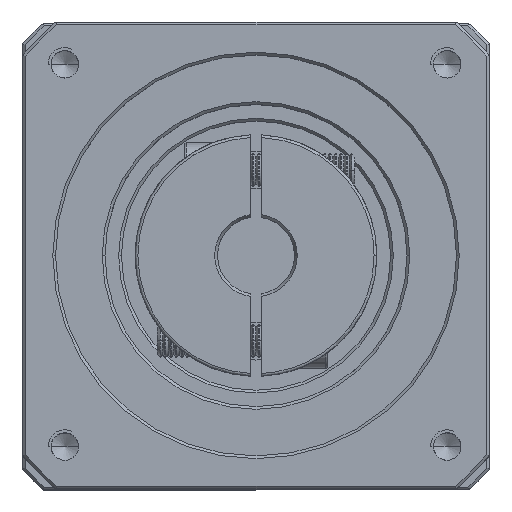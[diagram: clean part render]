
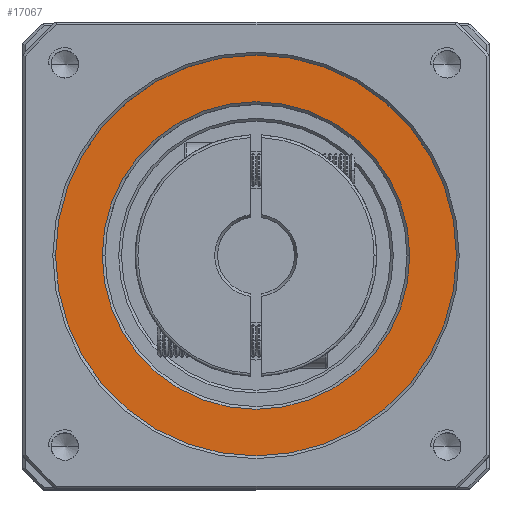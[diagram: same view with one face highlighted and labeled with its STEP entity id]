
A CAD part, top view. The second image highlights one B-rep face of the part: STEP entity #17067.
In plain terms, the highlighted planar face has unit normal (0, 0, 1).
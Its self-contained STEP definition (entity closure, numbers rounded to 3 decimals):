
#2518 = CIRCLE ( 'NONE', #116106, 36.5 ) ;
#4107 = CIRCLE ( 'NONE', #29869, 36.5 ) ;
#7945 = EDGE_CURVE ( 'NONE', #37835, #43815, #98008, .T. ) ;
#10359 = CARTESIAN_POINT ( 'NONE',  ( -93.575, 34.038, 33.892 ) ) ;
#11308 = CARTESIAN_POINT ( 'NONE',  ( -93.575, 34.038, 33.892 ) ) ;
#15806 = DIRECTION ( 'NONE',  ( 0., 0., -1. ) ) ;
#17067 = ADVANCED_FACE ( 'NONE', ( #87179, #66218 ), #63870, .T. ) ;
#19422 = DIRECTION ( 'NONE',  ( 1., 0., 0. ) ) ;
#20348 = DIRECTION ( 'NONE',  ( 1., 0., 0. ) ) ;
#25527 = VERTEX_POINT ( 'NONE', #103358 ) ;
#26102 = VERTEX_POINT ( 'NONE', #59445 ) ;
#29869 = AXIS2_PLACEMENT_3D ( 'NONE', #99952, #46379, #109073 ) ;
#33146 = ORIENTED_EDGE ( 'NONE', *, *, #36855, .T. ) ;
#33407 = CARTESIAN_POINT ( 'NONE',  ( -93.575, 34.038, 33.892 ) ) ;
#36855 = EDGE_CURVE ( 'NONE', #25527, #26102, #2518, .T. ) ;
#37835 = VERTEX_POINT ( 'NONE', #50265 ) ;
#42494 = DIRECTION ( 'NONE',  ( 1., 0., 0. ) ) ;
#43815 = VERTEX_POINT ( 'NONE', #92078 ) ;
#46379 = DIRECTION ( 'NONE',  ( 0., 0., 1. ) ) ;
#50265 = CARTESIAN_POINT ( 'NONE',  ( -121.575, 34.038, 33.892 ) ) ;
#53792 = AXIS2_PLACEMENT_3D ( 'NONE', #69609, #15806, #78612 ) ;
#55187 = ORIENTED_EDGE ( 'NONE', *, *, #55382, .T. ) ;
#55382 = EDGE_CURVE ( 'NONE', #43815, #37835, #61110, .T. ) ;
#59445 = CARTESIAN_POINT ( 'NONE',  ( -130.075, 34.038, 33.892 ) ) ;
#59876 = AXIS2_PLACEMENT_3D ( 'NONE', #10359, #73261, #19422 ) ;
#61110 = CIRCLE ( 'NONE', #75225, 28. ) ;
#61417 = EDGE_LOOP ( 'NONE', ( #55187, #101275 ) ) ;
#63870 = PLANE ( 'NONE',  #59876 ) ;
#64190 = EDGE_LOOP ( 'NONE', ( #33146, #104360 ) ) ;
#66218 = FACE_BOUND ( 'NONE', #61417, .T. ) ;
#69609 = CARTESIAN_POINT ( 'NONE',  ( -93.575, 34.038, 33.892 ) ) ;
#73261 = DIRECTION ( 'NONE',  ( 0., 0., 1. ) ) ;
#74195 = DIRECTION ( 'NONE',  ( 0., 0., 1. ) ) ;
#75225 = AXIS2_PLACEMENT_3D ( 'NONE', #33407, #96115, #42494 ) ;
#78612 = DIRECTION ( 'NONE',  ( 1., 0., 0. ) ) ;
#87179 = FACE_OUTER_BOUND ( 'NONE', #64190, .T. ) ;
#92078 = CARTESIAN_POINT ( 'NONE',  ( -65.575, 34.038, 33.892 ) ) ;
#94077 = EDGE_CURVE ( 'NONE', #26102, #25527, #4107, .T. ) ;
#96115 = DIRECTION ( 'NONE',  ( 0., 0., -1. ) ) ;
#98008 = CIRCLE ( 'NONE', #53792, 28. ) ;
#99952 = CARTESIAN_POINT ( 'NONE',  ( -93.575, 34.038, 33.892 ) ) ;
#101275 = ORIENTED_EDGE ( 'NONE', *, *, #7945, .T. ) ;
#103358 = CARTESIAN_POINT ( 'NONE',  ( -57.075, 34.038, 33.892 ) ) ;
#104360 = ORIENTED_EDGE ( 'NONE', *, *, #94077, .T. ) ;
#109073 = DIRECTION ( 'NONE',  ( 1., 0., 0. ) ) ;
#116106 = AXIS2_PLACEMENT_3D ( 'NONE', #11308, #74195, #20348 ) ;
